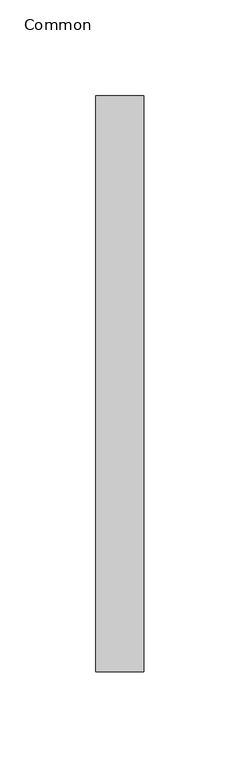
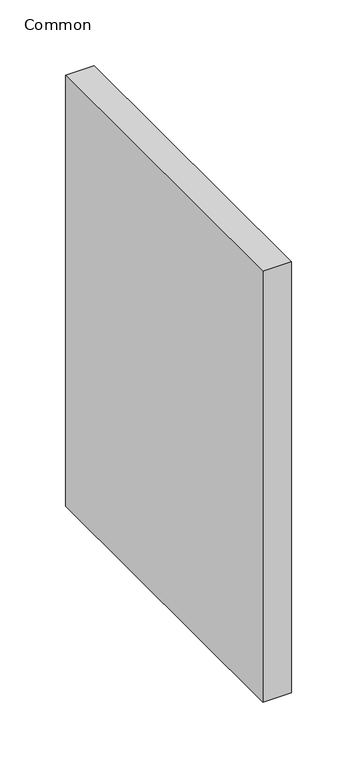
"""IFC4 building model written with IfcOpenShell, lengths in millimetres: duct fitting geometry, 081_角型エンドキャップ : Common."""

from ifc_helpers import new_model, si_unit, frame, origin, place, context, project, spatial, polyline, outline, extrude, source, transform, mapped, element, save


def common_d19d567b(model_context):
    return source(origin(), model_context, "Body", "SweptSolid", [
        extrude(outline(polyline([(0.0, -150.0), (0.0, 150.0), (25.0, 150.0), (25.0, -150.0), (0.0, -150.0)])), frame((0.0, 0.0, -200.0), z_axis=(0.0, 0.0, 1.0), x_axis=(1.0, 0.0, 0.0)), (0.0, 0.0, 1.0), 400.0),
    ])


if __name__ == "__main__":
    model = new_model("IFC4")
    model_context = context("Model", 3, world=origin())
    ifc_project = project(units=[si_unit("LENGTHUNIT", "METRE", prefix="MILLI")], contexts=[model_context])
    site = spatial("IfcSite", under=ifc_project)
    building = spatial("IfcBuilding", under=site)
    placement = place(None, origin())
    common_shape = common_d19d567b(model_context)
    element("IfcDuctFitting", 1, ObjectType="081_角型エンドキャップ : Common", at=placement, inside=building, context=model_context, shape_type="MappedRepresentation", body=[
        mapped(common_shape, transform((0.0, 0.0, 0.0), x_axis=(1.0, 0.0, 0.0), y_axis=(0.0, 1.0, 0.0), z_axis=(0.0, 0.0, 1.0))),
    ])
    save(model, "model.ifc")
